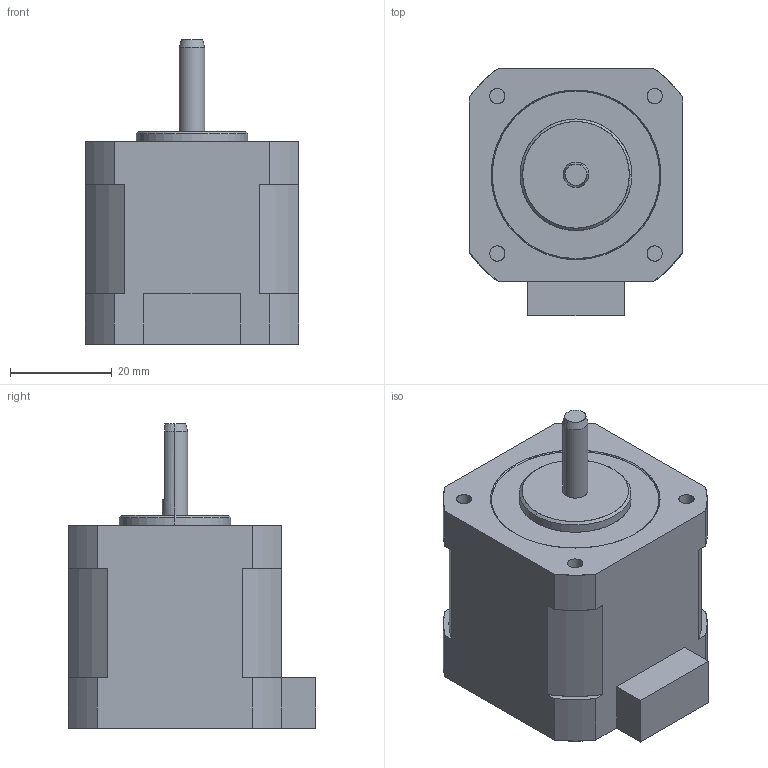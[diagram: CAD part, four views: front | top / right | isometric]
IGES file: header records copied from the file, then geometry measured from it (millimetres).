
Start section: SolidWorks IGES file using analytic representation for surfaces
Global section: file name: C:\Users\6870\Desktop\PMSA-U42D2_3D.IGS; native system: SolidWorks 2014; preprocessor: SolidWorks 2014; author: 6870; date: 170131.132915; units: millimetre
Bounding box: 42 x 48.7 x 60 mm (x, y, z)
Surface area: 10567.7 mm2 (no closed solid volume)
Topology: 0 solids, 0 shells, 58 faces, 820 edges, 820 vertices
Faces by surface type: revolution 31, bspline 27
